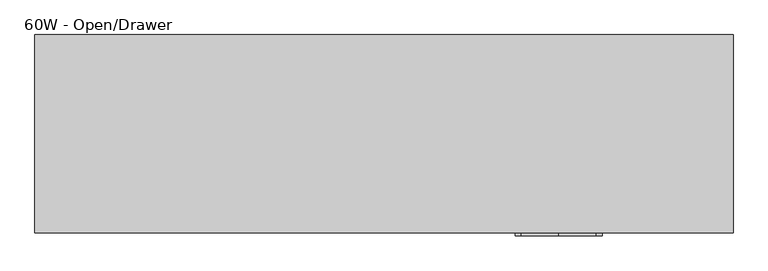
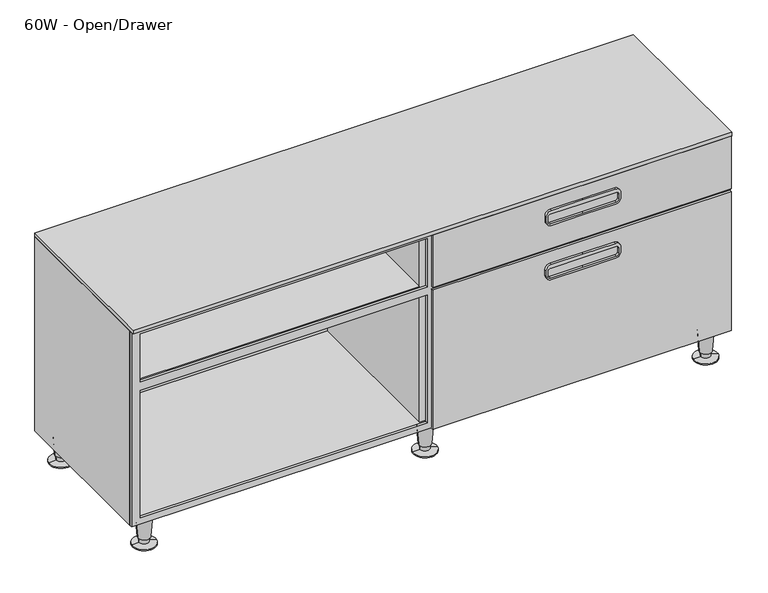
"""IFC4 building model written with IfcOpenShell, lengths in millimetres: furniture geometry, Steelcase - C Scape - Low Storage - 1.5 High - 60W and 72W : 60W - Open/Drawer."""

import ifcopenshell
import ifcopenshell.guid

model = None  # the IFC model being written
_history = None  # IfcOwnerHistory: only IFC2X3 demands one
_inside = {}  # id of a spatial element -> (the spatial element, [elements in it])
_under = {}  # id of a project, library or spatial element -> (it, [spatial elements below it])
_declared = {}  # id of a project -> (the project, [libraries it declares])
_typed = {}  # id of a type object -> (the type object, [elements of that type])
_made_of = {}  # id of a material, layer set ... -> (it, [elements and type objects made of it])


def new_model(schema):
    """Start an empty IFC model of exactly this schema.

    Asked for "IFC4X3", IfcOpenShell would pick the latest addendum, in which some entities
    have other attributes; the version numbers below select the first issue.
    IFC2X3 requires an IfcOwnerHistory on every rooted entity: one is made here for all.
    """
    global model, _history
    if schema == "IFC4X3":
        model = ifcopenshell.file(schema_version=(4, 3, 0, 0))
    else:
        model = ifcopenshell.file(schema=schema)
    _inside.clear()
    _under.clear()
    _declared.clear()
    _typed.clear()
    _made_of.clear()
    _history = None
    if model.schema == "IFC2X3":
        org = make("IfcOrganization", Name="unknown")
        user = make(
            "IfcPersonAndOrganization",
            ThePerson=make("IfcPerson", FamilyName="unknown"),
            TheOrganization=org,
        )
        app = make(
            "IfcApplication",
            ApplicationDeveloper=org,
            Version="unknown",
            ApplicationFullName="unknown",
            ApplicationIdentifier="unknown",
        )
        _history = make(
            "IfcOwnerHistory",
            OwningUser=user,
            OwningApplication=app,
            ChangeAction="ADDED",
            CreationDate=0,
        )
    return model


def make(cls, **values):
    """One entity of the class cls with the attributes given. An attribute that is None is left unset."""
    return model.create_entity(
        cls, **{name: value for name, value in values.items() if value is not None}
    )


def rooted(cls, **values):
    """An entity with a GlobalId (a new one), such as an element, a storey or a relation."""
    return make(cls, GlobalId=ifcopenshell.guid.new(), OwnerHistory=_history, **values)


def si_unit(unit_type, name, prefix=None):
    """IfcSIUnit, for example si_unit("LENGTHUNIT", "METRE", prefix="MILLI")."""
    return make("IfcSIUnit", UnitType=unit_type, Prefix=prefix, Name=name)


def assignment(units):
    """IfcUnitAssignment: the units of a project."""
    return None if units is None else make("IfcUnitAssignment", Units=units)


def point(xyz):
    """IfcCartesianPoint."""
    return None if xyz is None else make("IfcCartesianPoint", Coordinates=xyz)


def direction(xyz):
    """IfcDirection."""
    return None if xyz is None else make("IfcDirection", DirectionRatios=xyz)


def frame(location, z_axis=None, x_axis=None):
    """IfcAxis2Placement3D, a coordinate frame: its origin and axes. An axis left out is left unset."""
    return make(
        "IfcAxis2Placement3D",
        Location=point(location),
        Axis=direction(z_axis),
        RefDirection=direction(x_axis),
    )


def frame_2d(location, x_axis=None):
    """IfcAxis2Placement2D, a coordinate frame in the plane: its origin and x axis."""
    return make(
        "IfcAxis2Placement2D", Location=point(location), RefDirection=direction(x_axis)
    )


def origin():
    """The frame at (0, 0, 0) with its axes left unset."""
    return frame((0.0, 0.0, 0.0))


def place(relative_to, where):
    """IfcLocalPlacement: puts the frame where relative to a parent placement (None: the world)."""
    return make(
        "IfcLocalPlacement", PlacementRelTo=relative_to, RelativePlacement=where
    )


def context(
    kind, dimensions, precision=None, world=None, true_north=None, identifier=None
):
    """IfcGeometricRepresentationContext, for example the 3D "Model" context."""
    return make(
        "IfcGeometricRepresentationContext",
        ContextIdentifier=identifier,
        ContextType=kind,
        CoordinateSpaceDimension=dimensions,
        Precision=precision,
        WorldCoordinateSystem=world,
        TrueNorth=true_north,
    )


def project(units=None, contexts=None):
    """IfcProject with its units and contexts."""
    return rooted(
        "IfcProject",
        Name="project",
        RepresentationContexts=contexts,
        UnitsInContext=assignment(units),
    )


def spatial(cls, under=None, at=None, **own):
    """A site, building, storey or space (cls), placed at a placement, below another one or the project."""
    s = rooted(cls, ObjectPlacement=at, **own)
    if under is not None:
        _under.setdefault(under.id(), (under, []))[1].append(s)
    return s


def polyline(points):
    """IfcPolyline through the points."""
    return make("IfcPolyline", Points=[point(p) for p in points])


def circle_curve(where, radius):
    """IfcCircle in the frame where."""
    return make("IfcCircle", Position=where, Radius=radius)


def trimmed(basis, trim1, trim2, sense, master):
    """IfcTrimmedCurve: the piece of a basis curve between two trims."""
    return make(
        "IfcTrimmedCurve",
        BasisCurve=basis,
        Trim1=trim1,
        Trim2=trim2,
        SenseAgreement=sense,
        MasterRepresentation=master,
    )


def segment(curve, same_sense, transition):
    """IfcCompositeCurveSegment."""
    return make(
        "IfcCompositeCurveSegment",
        Transition=transition,
        SameSense=same_sense,
        ParentCurve=curve,
    )


def composite_curve(segments, self_intersect=None):
    """IfcCompositeCurve: segments joined end to end."""
    return make("IfcCompositeCurve", Segments=segments, SelfIntersect=self_intersect)


def outline(outer, holes=None, kind="AREA"):
    """IfcArbitraryClosedProfileDef: a profile drawn as a closed curve; with holes, ...WithVoids."""
    if holes is None:
        return make("IfcArbitraryClosedProfileDef", ProfileType=kind, OuterCurve=outer)
    return make(
        "IfcArbitraryProfileDefWithVoids",
        ProfileType=kind,
        OuterCurve=outer,
        InnerCurves=holes,
    )


def extrude(swept, where, along, depth):
    """IfcExtrudedAreaSolid: the profile swept, set in the frame where, extruded along a direction by depth."""
    return make(
        "IfcExtrudedAreaSolid",
        SweptArea=swept,
        Position=where,
        ExtrudedDirection=direction(along),
        Depth=depth,
    )


def faces_of(points, faces, orient=None, outer=None):
    """IfcFace entities. A face is a list of loops; a loop is a list of indices into points, from 0.

    orient and outer hold one flag for each loop. By default every Orientation is true, the
    first loop of a face is its IfcFaceOuterBound and the others are IfcFaceBound.
    """
    made = []
    for i, loops in enumerate(faces):
        bounds = []
        for j, loop in enumerate(loops):
            is_outer = j == 0 if outer is None else outer[i][j]
            bounds.append(
                make(
                    "IfcFaceOuterBound" if is_outer else "IfcFaceBound",
                    Bound=make("IfcPolyLoop", Polygon=[points[k] for k in loop]),
                    Orientation=True if orient is None else orient[i][j],
                )
            )
        made.append(make("IfcFace", Bounds=bounds))
    return made


def faceted_brep(points, faces, orient=None, outer=None, voids=None):
    """IfcFacetedBrep: a solid bounded by flat faces; with voids (closed shells), ...WithVoids."""
    shared = [point(p) for p in points]
    hull = make("IfcClosedShell", CfsFaces=faces_of(shared, faces, orient, outer))
    if voids is None:
        return make("IfcFacetedBrep", Outer=hull)
    return make(
        "IfcFacetedBrepWithVoids",
        Outer=hull,
        Voids=[
            make(cls, CfsFaces=faces_of(shared, fs, o, b)) for cls, fs, o, b in voids
        ],
    )


def shape(context_of_items, identifier, shape_type, items):
    """IfcShapeRepresentation: the items that make up one representation, for example the "Body"."""
    return make(
        "IfcShapeRepresentation",
        ContextOfItems=context_of_items,
        RepresentationIdentifier=identifier,
        RepresentationType=shape_type,
        Items=items,
    )


def source(mapping_origin, context_of_items, identifier, shape_type, items):
    """IfcRepresentationMap: a shape defined once, which mapped items show again and again."""
    return make(
        "IfcRepresentationMap",
        MappingOrigin=mapping_origin,
        MappedRepresentation=shape(context_of_items, identifier, shape_type, items),
    )


def transform(
    local_origin,
    x_axis=None,
    y_axis=None,
    z_axis=None,
    scale=None,
    scale2=None,
    scale3=None,
    uniform=True,
):
    """IfcCartesianTransformationOperator3D, or its non-uniform kind. x_axis, y_axis, z_axis: its Axis1, 2, 3."""
    if uniform:
        return make(
            "IfcCartesianTransformationOperator3D",
            Axis1=direction(x_axis),
            Axis2=direction(y_axis),
            LocalOrigin=point(local_origin),
            Scale=scale,
            Axis3=direction(z_axis),
        )
    return make(
        "IfcCartesianTransformationOperator3DnonUniform",
        Axis1=direction(x_axis),
        Axis2=direction(y_axis),
        LocalOrigin=point(local_origin),
        Scale=scale,
        Axis3=direction(z_axis),
        Scale2=scale2,
        Scale3=scale3,
    )


def mapped(mapping_source, mapping_target):
    """IfcMappedItem: shows the shape of a source again, moved by a transform."""
    return make(
        "IfcMappedItem", MappingSource=mapping_source, MappingTarget=mapping_target
    )


def made_of(thing, what):
    """Note that an element or type object is made of a material, layer set ...; save() writes the relation."""
    if what is not None:
        _made_of.setdefault(what.id(), (what, []))[1].append(thing)
    return thing


def element(
    cls,
    number,
    at=None,
    inside=None,
    cuts=None,
    type_object=None,
    material=None,
    context=None,
    identifier="Body",
    shape_type=None,
    held_by="IfcProductDefinitionShape",
    body=None,
    shapes=None,
    **own,
):
    """One element of the class cls, such as IfcWall. Its Tag is "e" and its number.

    at: its placement. inside: the storey or other place that contains it. cuts: it is an
    opening in that element (IfcRelVoidsElement). A single representation is given by context,
    identifier, shape_type and body (its items); several are given by shapes. held_by: the class
    of the entity that holds the representations. save() writes the other relations.
    """
    e = rooted(cls, Tag="e%d" % number, ObjectPlacement=at, **own)
    if body is not None:
        shapes = [shape(context, identifier, shape_type, body)]
    if shapes is not None:
        e.Representation = make(held_by, Representations=shapes)
    if inside is not None:
        _inside.setdefault(inside.id(), (inside, []))[1].append(e)
    if cuts is not None:
        rooted(
            "IfcRelVoidsElement", RelatingBuildingElement=cuts, RelatedOpeningElement=e
        )
    if type_object is not None:
        _typed.setdefault(type_object.id(), (type_object, []))[1].append(e)
    return made_of(e, material)


def aggregate(whole, parts):
    """IfcRelAggregates: a whole, such as a stair, and the parts it consists of."""
    return rooted("IfcRelAggregates", RelatingObject=whole, RelatedObjects=parts)


def save(model, path):
    """Write the relations noted so far, then the file.

    IfcRelAggregates (storeys below a building ...), IfcRelContainedInSpatialStructure (elements
    in a storey), IfcRelDefinesByType, IfcRelAssociatesMaterial and IfcRelDeclares: one each for
    every whole, place, type object, material and project.
    """
    for whole, parts in _under.values():
        aggregate(whole, parts)
    for where, things in _inside.values():
        rooted(
            "IfcRelContainedInSpatialStructure",
            RelatedElements=things,
            RelatingStructure=where,
        )
    for kind, things in _typed.values():
        rooted("IfcRelDefinesByType", RelatedObjects=things, RelatingType=kind)
    for what, things in _made_of.values():
        rooted("IfcRelAssociatesMaterial", RelatedObjects=things, RelatingMaterial=what)
    for by, libraries in _declared.values():
        rooted("IfcRelDeclares", RelatingContext=by, RelatedDefinitions=libraries)
    model.write(path)


def plane_surface(at):
    """IfcPlane: the flat surface through the origin of the frame at, square to its z axis."""
    return make("IfcPlane", Position=at)


def cylinder_surface(at, radius):
    """IfcCylindricalSurface: all points at the distance radius from the z axis of the frame at."""
    return make("IfcCylindricalSurface", Position=at, Radius=radius)


def revolved_surface(curve, axis_point, axis_direction):
    """IfcSurfaceOfRevolution: the curve turned about the line through axis_point along axis_direction."""
    return make(
        "IfcSurfaceOfRevolution",
        SweptCurve=make("IfcArbitraryOpenProfileDef", ProfileType="CURVE", Curve=curve),
        AxisPosition=make("IfcAxis1Placement", Location=point(axis_point), Axis=direction(axis_direction)),
    )


def advanced_brep(points, edges, surfaces, faces):
    """IfcAdvancedBrep: a solid bounded by faces that lie on surfaces and meet in shared edges.

    An edge is (start, end): straight between two places in points (the first is 0);
    or (start, end, curve); or (start, end, curve, False) where it runs against its curve.
    A face is (place in surfaces, loops), or (place, loops, False) where it looks against
    its surface's normal. A loop lists edges by number (the first is 1), with a minus sign
    where the edge is run from its end to its start. The first loop is the outer one.
    """
    corners = [point(p) for p in points]
    vertices = [make("IfcVertexPoint", VertexGeometry=c) for c in corners]
    made = []
    for start, end, *more in edges:
        made.append(
            make(
                "IfcEdgeCurve",
                EdgeStart=vertices[start],
                EdgeEnd=vertices[end],
                EdgeGeometry=more[0] if more else make("IfcPolyline", Points=[corners[start], corners[end]]),
                SameSense=more[1] if len(more) > 1 else True,
            )
        )
    hull = []
    for where, loops, *sense in faces:
        bounds = []
        for j, loop in enumerate(loops):
            ring = [make("IfcOrientedEdge", EdgeElement=made[abs(k) - 1], Orientation=k > 0) for k in loop]
            bounds.append(
                make(
                    "IfcFaceOuterBound" if j == 0 else "IfcFaceBound",
                    Bound=make("IfcEdgeLoop", EdgeList=ring),
                    Orientation=True,
                )
            )
        hull.append(make("IfcAdvancedFace", Bounds=bounds, FaceSurface=surfaces[where], SameSense=sense[0] if sense else True))
    return make("IfcAdvancedBrep", Outer=make("IfcClosedShell", CfsFaces=hull))


def furniture_60w_open_drawer_7b1ca7c3(model_context):
    return source(origin(), model_context, "Body", "SolidModel", [
        extrude(outline(polyline([(76.1508625, -305.435), (76.1508625, 1218.565), (599.4400097, 1218.565), (599.4400097, 457.132594), (599.4400097, -305.435), (76.1508625, -305.435)]), holes=[polyline([(92.7100024, 447.6410976), (92.7100024, -283.4617676), (436.8800097, -283.4617676), (436.8800097, 447.6410976), (92.7100024, 447.6410976)]), polyline([(588.9625, -283.4617676), (588.9625, 447.6410976), (458.7240097, 447.6410976), (458.7240097, -283.4617676), (588.9625, -283.4617676)]), polyline([(436.8800097, 465.4889024), (436.8800097, 1196.5917676), (92.7100024, 1196.5917676), (92.7100024, 465.4889024), (436.8800097, 465.4889024)]), polyline([(588.9625, 1196.5917676), (458.7240097, 1196.5917676), (458.7240097, 465.4889024), (588.9625, 465.4889024), (588.9625, 1196.5917676)])]), frame((0.0, -426.7186111, 0.0), z_axis=(0.0, 1.0, 0.0), x_axis=(0.0, 0.0, 1.0)), (0.0, 0.0, 1.0), 7.3648883),
        extrude(outline(polyline([(479.1075126, -9.525), (1196.5917676, -9.525), (1196.5917676, -415.2912402), (479.1075126, -415.2912402), (479.1075126, -9.525)])), frame((0.0, 0.0, 436.8800097), z_axis=(0.0, 0.0, 1.0), x_axis=(1.0, 0.0, 0.0)), (0.0, 0.0, 1.0), 21.844),
        extrude(outline(polyline([(434.0224874, -415.2912402), (-283.4617676, -415.2912402), (-283.4617676, -9.525), (434.0224874, -9.525), (434.0224874, -415.2912402)])), frame((0.0, 0.0, 436.8800097), z_axis=(0.0, 0.0, 1.0), x_axis=(1.0, 0.0, 0.0)), (0.0, 0.0, 1.0), 21.844),
        extrude(outline(composite_curve([segment(trimmed(circle_curve(frame_2d((406.3999879, 755.3320892)), 12.7), [point((419.0999879, 755.3320892))], [point((406.3999879, 742.6320892))], False, "CARTESIAN"), True, "CONTINUOUS"), segment(polyline([(406.3999879, 742.6320892), (391.795017, 742.6320892)]), True, "CONTINUOUS"), segment(trimmed(circle_curve(frame_2d((391.795017, 755.3320892)), 12.7), [point((391.795017, 742.6320892))], [point((379.095017, 755.3320892))], False, "CARTESIAN"), True, "CONTINUOUS"), segment(polyline([(379.095017, 755.3320892), (379.095017, 837.564845), (379.095017, 919.7976007)]), True, "CONTINUOUS"), segment(trimmed(circle_curve(frame_2d((391.795017, 919.7976007)), 12.7), [point((379.095017, 919.7976007))], [point((391.795017, 932.4976007))], False, "CARTESIAN"), True, "CONTINUOUS"), segment(polyline([(391.795017, 932.4976007), (406.3999879, 932.4976007)]), True, "CONTINUOUS"), segment(trimmed(circle_curve(frame_2d((406.3999879, 919.7976007)), 12.7), [point((406.3999879, 932.4976007))], [point((419.0999879, 919.7976007))], False, "CARTESIAN"), True, "CONTINUOUS"), segment(polyline([(419.0999879, 919.7976007), (419.0999879, 837.564845), (419.0999879, 755.3320892)]), True, "CONTINUOUS")], self_intersect=False), holes=[composite_curve([segment(trimmed(circle_curve(frame_2d((402.9710063, 753.8097015)), 6.35), [point((402.9710063, 747.4597015))], [point((409.3210063, 753.8097015))], True, "CARTESIAN"), True, "CONTINUOUS"), segment(polyline([(409.3210063, 753.8097015), (409.3210063, 837.564845), (409.3210063, 921.3199884)]), True, "CONTINUOUS"), segment(trimmed(circle_curve(frame_2d((402.9710063, 921.3199884)), 6.35), [point((409.3210063, 921.3199884))], [point((402.9710063, 927.6699884))], True, "CARTESIAN"), True, "CONTINUOUS"), segment(polyline([(402.9710063, 927.6699884), (390.2709942, 927.6699884)]), True, "CONTINUOUS"), segment(trimmed(circle_curve(frame_2d((390.2709942, 921.3199884)), 6.35), [point((390.2709942, 927.6699884))], [point((383.9209942, 921.3199884))], True, "CARTESIAN"), True, "CONTINUOUS"), segment(polyline([(383.9209942, 921.3199884), (383.9209942, 837.564845), (383.9209942, 753.8097015)]), True, "CONTINUOUS"), segment(trimmed(circle_curve(frame_2d((390.2709942, 753.8097015)), 6.35), [point((383.9209942, 753.8097015))], [point((390.2709942, 747.4597015))], True, "CARTESIAN"), True, "CONTINUOUS"), segment(polyline([(390.2709942, 747.4597015), (402.9710063, 747.4597015)]), True, "CONTINUOUS")], self_intersect=False)]), frame((0.0, -439.42, 0.0), z_axis=(0.0, 1.0, 0.0), x_axis=(0.0, 0.0, 1.0)), (0.0, 0.0, 1.0), 6.35),
        extrude(outline(polyline([(457.1996899, -426.7186111), (1217.93, -426.7186111), (1217.93, -433.07), (457.1996899, -433.07), (457.1996899, -426.7186111)])), frame((0.0, 0.0, 458.7240097), z_axis=(0.0, 0.0, 1.0), x_axis=(1.0, 0.0, 0.0)), (0.0, 0.0, 1.0), 140.716),
        faceted_brep([(-283.4617676, -419.3537227, 92.7100024), (1196.5917676, -419.3537227, 92.7100024), (1196.5917676, -9.525, 92.7100024), (479.1075126, -9.525, 92.7100024), (479.1075126, -415.2912402, 92.7100024), (434.0224874, -415.2912402, 92.7100024), (434.0224874, -9.525, 92.7100024), (-283.4617676, -9.525, 92.7100024), (1218.565, 0.0, 76.2), (1218.565, -419.3537227, 76.2), (-305.435, -419.3537227, 76.2), (-305.435, 0.0, 76.2), (-283.4630912, -419.3537227, 599.4400097), (-305.435, -419.3537227, 599.4400097), (1218.565, -419.3537227, 599.4400097), (1196.5917676, -419.3537227, 599.4400097), (-305.435, 0.0, 599.4400097), (1218.565, 0.0, 599.4400097), (-283.4630912, -9.525, 599.4400097), (434.0224874, -9.525, 599.4400097), (434.0224874, -415.2912402, 599.4400097), (479.1075126, -415.2912402, 599.4400097), (479.1075126, -9.525, 599.4400097), (1196.5917676, -9.525, 599.4400097)], [[[0, 1, 2, 3, 4, 5, 6, 7]], [[8, 9, 10, 11]], [[1, 0, 12, 13, 10, 9, 14, 15]], [[8, 11, 16, 17]], [[16, 13, 12, 18, 19, 20, 21, 22, 23, 15, 14, 17]], [[13, 16, 11, 10]], [[18, 12, 0, 7]], [[19, 18, 7, 6]], [[20, 19, 6, 5]], [[22, 21, 4, 3]], [[23, 22, 3, 2]], [[15, 23, 2, 1]], [[17, 14, 9, 8]], [[21, 20, 5, 4]]]),
        advanced_brep(
        [(427.4539515, -29.9489775, 0.0), (485.6760485, -38.8569507, 0.0), (456.565, -34.4029641, 0.0), (427.4539515, -29.9489775, 2.5119506), (485.6760485, -38.8569507, 2.5119506), (444.802835, -32.6033544, 5.7545598), (468.327165, -36.2025738, 5.7545598), (444.1140655, -32.4979728, 19.05), (469.0159345, -36.3079555, 19.05), (441.6844786, -32.1262463, 19.05), (471.4455214, -36.6796819, 19.05), (437.7341305, -31.5218435, 76.2), (475.3958695, -37.2840847, 76.2), (456.565, -34.4029641, 76.2)],
        [
            (0, 1, circle_curve(frame((456.565, -34.4029641, 0.0), z_axis=(0.0, 0.0, -1.0), x_axis=(0.0, -1.0, 0.0)), 29.4498071)),
            (1, 2),
            (2, 0),
            (1, 0, circle_curve(frame((456.565, -34.4029641, 0.0), z_axis=(0.0, 0.0, -1.0), x_axis=(0.0, -1.0, 0.0)), 29.4498071)),
            (3, 4, circle_curve(frame((456.565, -34.4029641, 2.5119506), z_axis=(0.0, 0.0, -1.0), x_axis=(0.0, -1.0, 0.0)), 29.4498071)),
            (4, 1),
            (0, 3),
            (4, 3, circle_curve(frame((456.565, -34.4029641, 2.5119506), z_axis=(0.0, 0.0, -1.0), x_axis=(0.0, -1.0, 0.0)), 29.4498071)),
            (5, 6, circle_curve(frame((456.565, -34.4029641, 5.7545598), z_axis=(0.0, 0.0, -1.0), x_axis=(0.0, -1.0, 0.0)), 11.8990387)),
            (6, 4),
            (3, 5),
            (6, 5, circle_curve(frame((456.565, -34.4029641, 5.7545598), z_axis=(0.0, 0.0, -1.0), x_axis=(0.0, -1.0, 0.0)), 11.8990387)),
            (7, 8, circle_curve(frame((456.565, -34.4029641, 19.05), z_axis=(0.0, 0.0, -1.0), x_axis=(0.0, -1.0, 0.0)), 12.5958232)),
            (8, 6),
            (5, 7),
            (8, 7, circle_curve(frame((456.565, -34.4029641, 19.05), z_axis=(0.0, 0.0, -1.0), x_axis=(0.0, -1.0, 0.0)), 12.5958232)),
            (9, 10, circle_curve(frame((456.565, -34.4029641, 19.05), z_axis=(0.0, 0.0, -1.0), x_axis=(0.0, -1.0, 0.0)), 15.0536827)),
            (10, 8),
            (7, 9),
            (10, 9, circle_curve(frame((456.565, -34.4029641, 19.05), z_axis=(0.0, 0.0, -1.0), x_axis=(0.0, -1.0, 0.0)), 15.0536827)),
            (11, 12, circle_curve(frame((456.565, -34.4029641, 76.2), z_axis=(0.0, 0.0, -1.0), x_axis=(0.0, -1.0, 0.0)), 19.05)),
            (12, 10),
            (9, 11),
            (12, 11, circle_curve(frame((456.565, -34.4029641, 76.2), z_axis=(0.0, 0.0, -1.0), x_axis=(0.0, -1.0, 0.0)), 19.05)),
            (13, 12),
            (11, 13),
        ],
        [
            plane_surface(frame((456.565, -34.4029641, 0.0), z_axis=(0.0, 0.0, -1.0), x_axis=(0.0, -1.0, 0.0))),
            cylinder_surface(frame((456.565, -34.4029641, 25.4), z_axis=(0.0, 0.0, 1.0), x_axis=(0.0, -1.0, 0.0)), 29.4498071),
            revolved_surface(polyline([(456.565, -63.8527712, 2.5119506), (456.565, -46.3020028, 5.7545598)]), (456.565, -34.4029641, 25.4), (0.0, 0.0, 1.0)),
            revolved_surface(polyline([(456.565, -46.3020028, 5.7545598), (456.565, -46.9987873, 19.05)]), (456.565, -34.4029641, 25.4), (0.0, 0.0, 1.0)),
            plane_surface(frame((456.565, -34.4029641, 19.05), z_axis=(0.0, 0.0, -1.0), x_axis=(0.0, -1.0, 0.0))),
            revolved_surface(polyline([(456.565, -49.4566468, 19.05), (456.565, -53.4529641, 76.2)]), (456.565, -34.4029641, 25.4), (0.0, 0.0, 1.0)),
            plane_surface(frame((456.565, -34.4029641, 76.2), z_axis=(0.0, 0.0, 1.0), x_axis=(0.0, -1.0, 0.0))),
        ],
        [
            (0, [[1, 2, 3]]),
            (0, [[4, -3, -2]]),
            (1, [[5, 6, -1, 7]]),
            (1, [[8, -7, -4, -6]]),
            (2, [[9, 10, -5, 11]]),
            (2, [[12, -11, -8, -10]]),
            (3, [[13, 14, -9, 15]]),
            (3, [[16, -15, -12, -14]]),
            (4, [[17, 18, -13, 19]]),
            (4, [[20, -19, -16, -18]]),
            (5, [[21, 22, -17, 23]]),
            (5, [[24, -23, -20, -22]]),
            (6, [[25, -21, 26]]),
            (6, [[-26, -24, -25]]),
        ],
    ),
        advanced_brep(
        [(427.4539515, -395.5974102, 0.0), (485.6760485, -404.5053834, 0.0), (456.565, -400.0513968, 0.0), (427.4539515, -395.5974102, 2.5119506), (485.6760485, -404.5053834, 2.5119506), (444.802835, -398.2517871, 5.7545598), (468.327165, -401.8510065, 5.7545598), (444.1140655, -398.1464055, 19.05), (469.0159345, -401.9563882, 19.05), (441.6844786, -397.774679, 19.05), (471.4455214, -402.3281146, 19.05), (437.7341305, -397.1702762, 76.2), (475.3958695, -402.9325174, 76.2), (456.565, -400.0513968, 76.2)],
        [
            (0, 1, circle_curve(frame((456.565, -400.0513968, 0.0), z_axis=(0.0, 0.0, -1.0), x_axis=(0.0, -1.0, 0.0)), 29.4498071)),
            (1, 2),
            (2, 0),
            (1, 0, circle_curve(frame((456.565, -400.0513968, 0.0), z_axis=(0.0, 0.0, -1.0), x_axis=(0.0, -1.0, 0.0)), 29.4498071)),
            (3, 4, circle_curve(frame((456.565, -400.0513968, 2.5119506), z_axis=(0.0, 0.0, -1.0), x_axis=(0.0, -1.0, 0.0)), 29.4498071)),
            (4, 1),
            (0, 3),
            (4, 3, circle_curve(frame((456.565, -400.0513968, 2.5119506), z_axis=(0.0, 0.0, -1.0), x_axis=(0.0, -1.0, 0.0)), 29.4498071)),
            (5, 6, circle_curve(frame((456.565, -400.0513968, 5.7545598), z_axis=(0.0, 0.0, -1.0), x_axis=(0.0, -1.0, 0.0)), 11.8990387)),
            (6, 4),
            (3, 5),
            (6, 5, circle_curve(frame((456.565, -400.0513968, 5.7545598), z_axis=(0.0, 0.0, -1.0), x_axis=(0.0, -1.0, 0.0)), 11.8990387)),
            (7, 8, circle_curve(frame((456.565, -400.0513968, 19.05), z_axis=(0.0, 0.0, -1.0), x_axis=(0.0, -1.0, 0.0)), 12.5958232)),
            (8, 6),
            (5, 7),
            (8, 7, circle_curve(frame((456.565, -400.0513968, 19.05), z_axis=(0.0, 0.0, -1.0), x_axis=(0.0, -1.0, 0.0)), 12.5958232)),
            (9, 10, circle_curve(frame((456.565, -400.0513968, 19.05), z_axis=(0.0, 0.0, -1.0), x_axis=(0.0, -1.0, 0.0)), 15.0536827)),
            (10, 8),
            (7, 9),
            (10, 9, circle_curve(frame((456.565, -400.0513968, 19.05), z_axis=(0.0, 0.0, -1.0), x_axis=(0.0, -1.0, 0.0)), 15.0536827)),
            (11, 12, circle_curve(frame((456.565, -400.0513968, 76.2), z_axis=(0.0, 0.0, -1.0), x_axis=(0.0, -1.0, 0.0)), 19.05)),
            (12, 10),
            (9, 11),
            (12, 11, circle_curve(frame((456.565, -400.0513968, 76.2), z_axis=(0.0, 0.0, -1.0), x_axis=(0.0, -1.0, 0.0)), 19.05)),
            (13, 12),
            (11, 13),
        ],
        [
            plane_surface(frame((456.565, -400.0513968, 0.0), z_axis=(0.0, 0.0, -1.0), x_axis=(0.0, -1.0, 0.0))),
            cylinder_surface(frame((456.565, -400.0513968, 25.4), z_axis=(0.0, 0.0, 1.0), x_axis=(0.0, -1.0, 0.0)), 29.4498071),
            revolved_surface(polyline([(456.565, -429.5012039, 2.5119506), (456.565, -411.9504355, 5.7545598)]), (456.565, -400.0513968, 25.4), (0.0, 0.0, 1.0)),
            revolved_surface(polyline([(456.565, -411.9504355, 5.7545598), (456.565, -412.64722, 19.05)]), (456.565, -400.0513968, 25.4), (0.0, 0.0, 1.0)),
            plane_surface(frame((456.565, -400.0513968, 19.05), z_axis=(0.0, 0.0, -1.0), x_axis=(0.0, -1.0, 0.0))),
            revolved_surface(polyline([(456.565, -415.1050795, 19.05), (456.565, -419.1013968, 76.2)]), (456.565, -400.0513968, 25.4), (0.0, 0.0, 1.0)),
            plane_surface(frame((456.565, -400.0513968, 76.2), z_axis=(0.0, 0.0, 1.0), x_axis=(0.0, -1.0, 0.0))),
        ],
        [
            (0, [[1, 2, 3]]),
            (0, [[4, -3, -2]]),
            (1, [[5, 6, -1, 7]]),
            (1, [[8, -7, -4, -6]]),
            (2, [[9, 10, -5, 11]]),
            (2, [[12, -11, -8, -10]]),
            (3, [[13, 14, -9, 15]]),
            (3, [[16, -15, -12, -14]]),
            (4, [[17, 18, -13, 19]]),
            (4, [[20, -19, -16, -18]]),
            (5, [[21, 22, -17, 23]]),
            (5, [[24, -23, -20, -22]]),
            (6, [[25, -21, 26]]),
            (6, [[-26, -24, -25]]),
        ],
    ),
        extrude(outline(composite_curve([segment(trimmed(circle_curve(frame_2d((552.4499879, 755.3320892)), 12.7), [point((565.1499879, 755.3320892))], [point((552.4499879, 742.6320892))], False, "CARTESIAN"), True, "CONTINUOUS"), segment(polyline([(552.4499879, 742.6320892), (537.845017, 742.6320892)]), True, "CONTINUOUS"), segment(trimmed(circle_curve(frame_2d((537.845017, 755.3320892)), 12.7), [point((537.845017, 742.6320892))], [point((525.145017, 755.3320892))], False, "CARTESIAN"), True, "CONTINUOUS"), segment(polyline([(525.145017, 755.3320892), (525.145017, 837.564845), (525.145017, 919.7976007)]), True, "CONTINUOUS"), segment(trimmed(circle_curve(frame_2d((537.845017, 919.7976007)), 12.7), [point((525.145017, 919.7976007))], [point((537.845017, 932.4976007))], False, "CARTESIAN"), True, "CONTINUOUS"), segment(polyline([(537.845017, 932.4976007), (552.4499879, 932.4976007)]), True, "CONTINUOUS"), segment(trimmed(circle_curve(frame_2d((552.4499879, 919.7976007)), 12.7), [point((552.4499879, 932.4976007))], [point((565.1499879, 919.7976007))], False, "CARTESIAN"), True, "CONTINUOUS"), segment(polyline([(565.1499879, 919.7976007), (565.1499879, 837.564845), (565.1499879, 755.3320892)]), True, "CONTINUOUS")], self_intersect=False), holes=[composite_curve([segment(trimmed(circle_curve(frame_2d((549.0210063, 753.8097015)), 6.35), [point((549.0210063, 747.4597015))], [point((555.3710063, 753.8097015))], True, "CARTESIAN"), True, "CONTINUOUS"), segment(polyline([(555.3710063, 753.8097015), (555.3710063, 837.564845), (555.3710063, 921.3199884)]), True, "CONTINUOUS"), segment(trimmed(circle_curve(frame_2d((549.0210063, 921.3199884)), 6.35), [point((555.3710063, 921.3199884))], [point((549.0210063, 927.6699884))], True, "CARTESIAN"), True, "CONTINUOUS"), segment(polyline([(549.0210063, 927.6699884), (536.3209942, 927.6699884)]), True, "CONTINUOUS"), segment(trimmed(circle_curve(frame_2d((536.3209942, 921.3199884)), 6.35), [point((536.3209942, 927.6699884))], [point((529.9709942, 921.3199884))], True, "CARTESIAN"), True, "CONTINUOUS"), segment(polyline([(529.9709942, 921.3199884), (529.9709942, 837.564845), (529.9709942, 753.8097015)]), True, "CONTINUOUS"), segment(trimmed(circle_curve(frame_2d((536.3209942, 753.8097015)), 6.35), [point((529.9709942, 753.8097015))], [point((536.3209942, 747.4597015))], True, "CARTESIAN"), True, "CONTINUOUS"), segment(polyline([(536.3209942, 747.4597015), (549.0210063, 747.4597015)]), True, "CONTINUOUS")], self_intersect=False)]), frame((0.0, -439.42, 0.0), z_axis=(0.0, 1.0, 0.0), x_axis=(0.0, 0.0, 1.0)), (0.0, 0.0, 1.0), 6.35),
        advanced_brep(
        [(1142.1075389, -29.9489775, 0.0), (1200.3296359, -38.8569507, 0.0), (1171.2185874, -34.4029641, 0.0), (1142.1075389, -29.9489775, 2.5119506), (1200.3296359, -38.8569507, 2.5119506), (1159.4564224, -32.6033544, 5.7545598), (1182.9807524, -36.2025738, 5.7545598), (1158.7676529, -32.4979728, 19.05), (1183.6695219, -36.3079555, 19.05), (1156.3380659, -32.1262463, 19.05), (1186.0991088, -36.6796819, 19.05), (1152.3877179, -31.5218435, 76.2), (1190.0494568, -37.2840847, 76.2), (1171.2185874, -34.4029641, 76.2)],
        [
            (0, 1, circle_curve(frame((1171.2185874, -34.4029641, 0.0), z_axis=(0.0, 0.0, -1.0), x_axis=(0.0, -1.0, 0.0)), 29.4498071)),
            (1, 2),
            (2, 0),
            (1, 0, circle_curve(frame((1171.2185874, -34.4029641, 0.0), z_axis=(0.0, 0.0, -1.0), x_axis=(0.0, -1.0, 0.0)), 29.4498071)),
            (3, 4, circle_curve(frame((1171.2185874, -34.4029641, 2.5119506), z_axis=(0.0, 0.0, -1.0), x_axis=(0.0, -1.0, 0.0)), 29.4498071)),
            (4, 1),
            (0, 3),
            (4, 3, circle_curve(frame((1171.2185874, -34.4029641, 2.5119506), z_axis=(0.0, 0.0, -1.0), x_axis=(0.0, -1.0, 0.0)), 29.4498071)),
            (5, 6, circle_curve(frame((1171.2185874, -34.4029641, 5.7545598), z_axis=(0.0, 0.0, -1.0), x_axis=(0.0, -1.0, 0.0)), 11.8990387)),
            (6, 4),
            (3, 5),
            (6, 5, circle_curve(frame((1171.2185874, -34.4029641, 5.7545598), z_axis=(0.0, 0.0, -1.0), x_axis=(0.0, -1.0, 0.0)), 11.8990387)),
            (7, 8, circle_curve(frame((1171.2185874, -34.4029641, 19.05), z_axis=(0.0, 0.0, -1.0), x_axis=(0.0, -1.0, 0.0)), 12.5958232)),
            (8, 6),
            (5, 7),
            (8, 7, circle_curve(frame((1171.2185874, -34.4029641, 19.05), z_axis=(0.0, 0.0, -1.0), x_axis=(0.0, -1.0, 0.0)), 12.5958232)),
            (9, 10, circle_curve(frame((1171.2185874, -34.4029641, 19.05), z_axis=(0.0, 0.0, -1.0), x_axis=(0.0, -1.0, 0.0)), 15.0536827)),
            (10, 8),
            (7, 9),
            (10, 9, circle_curve(frame((1171.2185874, -34.4029641, 19.05), z_axis=(0.0, 0.0, -1.0), x_axis=(0.0, -1.0, 0.0)), 15.0536827)),
            (11, 12, circle_curve(frame((1171.2185874, -34.4029641, 76.2), z_axis=(0.0, 0.0, -1.0), x_axis=(0.0, -1.0, 0.0)), 19.05)),
            (12, 10),
            (9, 11),
            (12, 11, circle_curve(frame((1171.2185874, -34.4029641, 76.2), z_axis=(0.0, 0.0, -1.0), x_axis=(0.0, -1.0, 0.0)), 19.05)),
            (13, 12),
            (11, 13),
        ],
        [
            plane_surface(frame((1171.2185874, -34.4029641, 0.0), z_axis=(0.0, 0.0, -1.0), x_axis=(0.0, -1.0, 0.0))),
            cylinder_surface(frame((1171.2185874, -34.4029641, 25.4), z_axis=(0.0, 0.0, 1.0), x_axis=(0.0, -1.0, 0.0)), 29.4498071),
            revolved_surface(polyline([(1171.2185874, -63.8527712, 2.5119506), (1171.2185874, -46.3020028, 5.7545598)]), (1171.2185874, -34.4029641, 25.4), (0.0, 0.0, 1.0)),
            revolved_surface(polyline([(1171.2185874, -46.3020028, 5.7545598), (1171.2185874, -46.9987873, 19.05)]), (1171.2185874, -34.4029641, 25.4), (0.0, 0.0, 1.0)),
            plane_surface(frame((1171.2185874, -34.4029641, 19.05), z_axis=(0.0, 0.0, -1.0), x_axis=(0.0, -1.0, 0.0))),
            revolved_surface(polyline([(1171.2185874, -49.4566468, 19.05), (1171.2185874, -53.4529641, 76.2)]), (1171.2185874, -34.4029641, 25.4), (0.0, 0.0, 1.0)),
            plane_surface(frame((1171.2185874, -34.4029641, 76.2), z_axis=(0.0, 0.0, 1.0), x_axis=(0.0, -1.0, 0.0))),
        ],
        [
            (0, [[1, 2, 3]]),
            (0, [[4, -3, -2]]),
            (1, [[5, 6, -1, 7]]),
            (1, [[8, -7, -4, -6]]),
            (2, [[9, 10, -5, 11]]),
            (2, [[12, -11, -8, -10]]),
            (3, [[13, 14, -9, 15]]),
            (3, [[16, -15, -12, -14]]),
            (4, [[17, 18, -13, 19]]),
            (4, [[20, -19, -16, -18]]),
            (5, [[21, 22, -17, 23]]),
            (5, [[24, -23, -20, -22]]),
            (6, [[25, -21, 26]]),
            (6, [[-26, -24, -25]]),
        ],
    ),
        advanced_brep(
        [(1142.1075389, -395.5974102, 0.0), (1200.3296359, -404.5053834, 0.0), (1171.2185874, -400.0513968, 0.0), (1142.1075389, -395.5974102, 2.5119506), (1200.3296359, -404.5053834, 2.5119506), (1159.4564224, -398.2517871, 5.7545598), (1182.9807524, -401.8510065, 5.7545598), (1158.7676529, -398.1464055, 19.05), (1183.6695219, -401.9563882, 19.05), (1156.3380659, -397.774679, 19.05), (1186.0991088, -402.3281146, 19.05), (1152.3877179, -397.1702762, 76.2), (1190.0494568, -402.9325174, 76.2), (1171.2185874, -400.0513968, 76.2)],
        [
            (0, 1, circle_curve(frame((1171.2185874, -400.0513968, 0.0), z_axis=(0.0, 0.0, -1.0), x_axis=(0.0, -1.0, 0.0)), 29.4498071)),
            (1, 2),
            (2, 0),
            (1, 0, circle_curve(frame((1171.2185874, -400.0513968, 0.0), z_axis=(0.0, 0.0, -1.0), x_axis=(0.0, -1.0, 0.0)), 29.4498071)),
            (3, 4, circle_curve(frame((1171.2185874, -400.0513968, 2.5119506), z_axis=(0.0, 0.0, -1.0), x_axis=(0.0, -1.0, 0.0)), 29.4498071)),
            (4, 1),
            (0, 3),
            (4, 3, circle_curve(frame((1171.2185874, -400.0513968, 2.5119506), z_axis=(0.0, 0.0, -1.0), x_axis=(0.0, -1.0, 0.0)), 29.4498071)),
            (5, 6, circle_curve(frame((1171.2185874, -400.0513968, 5.7545598), z_axis=(0.0, 0.0, -1.0), x_axis=(0.0, -1.0, 0.0)), 11.8990387)),
            (6, 4),
            (3, 5),
            (6, 5, circle_curve(frame((1171.2185874, -400.0513968, 5.7545598), z_axis=(0.0, 0.0, -1.0), x_axis=(0.0, -1.0, 0.0)), 11.8990387)),
            (7, 8, circle_curve(frame((1171.2185874, -400.0513968, 19.05), z_axis=(0.0, 0.0, -1.0), x_axis=(0.0, -1.0, 0.0)), 12.5958232)),
            (8, 6),
            (5, 7),
            (8, 7, circle_curve(frame((1171.2185874, -400.0513968, 19.05), z_axis=(0.0, 0.0, -1.0), x_axis=(0.0, -1.0, 0.0)), 12.5958232)),
            (9, 10, circle_curve(frame((1171.2185874, -400.0513968, 19.05), z_axis=(0.0, 0.0, -1.0), x_axis=(0.0, -1.0, 0.0)), 15.0536827)),
            (10, 8),
            (7, 9),
            (10, 9, circle_curve(frame((1171.2185874, -400.0513968, 19.05), z_axis=(0.0, 0.0, -1.0), x_axis=(0.0, -1.0, 0.0)), 15.0536827)),
            (11, 12, circle_curve(frame((1171.2185874, -400.0513968, 76.2), z_axis=(0.0, 0.0, -1.0), x_axis=(0.0, -1.0, 0.0)), 19.05)),
            (12, 10),
            (9, 11),
            (12, 11, circle_curve(frame((1171.2185874, -400.0513968, 76.2), z_axis=(0.0, 0.0, -1.0), x_axis=(0.0, -1.0, 0.0)), 19.05)),
            (13, 12),
            (11, 13),
        ],
        [
            plane_surface(frame((1171.2185874, -400.0513968, 0.0), z_axis=(0.0, 0.0, -1.0), x_axis=(0.0, -1.0, 0.0))),
            cylinder_surface(frame((1171.2185874, -400.0513968, 25.4), z_axis=(0.0, 0.0, 1.0), x_axis=(0.0, -1.0, 0.0)), 29.4498071),
            revolved_surface(polyline([(1171.2185874, -429.5012039, 2.5119506), (1171.2185874, -411.9504355, 5.7545598)]), (1171.2185874, -400.0513968, 25.4), (0.0, 0.0, 1.0)),
            revolved_surface(polyline([(1171.2185874, -411.9504355, 5.7545598), (1171.2185874, -412.64722, 19.05)]), (1171.2185874, -400.0513968, 25.4), (0.0, 0.0, 1.0)),
            plane_surface(frame((1171.2185874, -400.0513968, 19.05), z_axis=(0.0, 0.0, -1.0), x_axis=(0.0, -1.0, 0.0))),
            revolved_surface(polyline([(1171.2185874, -415.1050795, 19.05), (1171.2185874, -419.1013968, 76.2)]), (1171.2185874, -400.0513968, 25.4), (0.0, 0.0, 1.0)),
            plane_surface(frame((1171.2185874, -400.0513968, 76.2), z_axis=(0.0, 0.0, 1.0), x_axis=(0.0, -1.0, 0.0))),
        ],
        [
            (0, [[1, 2, 3]]),
            (0, [[4, -3, -2]]),
            (1, [[5, 6, -1, 7]]),
            (1, [[8, -7, -4, -6]]),
            (2, [[9, 10, -5, 11]]),
            (2, [[12, -11, -8, -10]]),
            (3, [[13, 14, -9, 15]]),
            (3, [[16, -15, -12, -14]]),
            (4, [[17, 18, -13, 19]]),
            (4, [[20, -19, -16, -18]]),
            (5, [[21, 22, -17, 23]]),
            (5, [[24, -23, -20, -22]]),
            (6, [[25, -21, 26]]),
            (6, [[-26, -24, -25]]),
        ],
    ),
        advanced_brep(
        [(-287.8113721, -395.5974102, 0.0), (-229.5892752, -404.5053834, 0.0), (-258.7003237, -400.0513968, 0.0), (-287.8113721, -395.5974102, 2.5119506), (-229.5892752, -404.5053834, 2.5119506), (-270.4624887, -398.2517871, 5.7545598), (-246.9381586, -401.8510065, 5.7545598), (-271.1512581, -398.1464055, 19.05), (-246.2493892, -401.9563882, 19.05), (-273.5808451, -397.774679, 19.05), (-243.8198022, -402.3281146, 19.05), (-277.5311931, -397.1702762, 76.2), (-239.8694542, -402.9325174, 76.2), (-258.7003237, -400.0513968, 76.2)],
        [
            (0, 1, circle_curve(frame((-258.7003237, -400.0513968, 0.0), z_axis=(0.0, 0.0, -1.0), x_axis=(0.0, -1.0, 0.0)), 29.4498071)),
            (1, 2),
            (2, 0),
            (1, 0, circle_curve(frame((-258.7003237, -400.0513968, 0.0), z_axis=(0.0, 0.0, -1.0), x_axis=(0.0, -1.0, 0.0)), 29.4498071)),
            (3, 4, circle_curve(frame((-258.7003237, -400.0513968, 2.5119506), z_axis=(0.0, 0.0, -1.0), x_axis=(0.0, -1.0, 0.0)), 29.4498071)),
            (4, 1),
            (0, 3),
            (4, 3, circle_curve(frame((-258.7003237, -400.0513968, 2.5119506), z_axis=(0.0, 0.0, -1.0), x_axis=(0.0, -1.0, 0.0)), 29.4498071)),
            (5, 6, circle_curve(frame((-258.7003237, -400.0513968, 5.7545598), z_axis=(0.0, 0.0, -1.0), x_axis=(0.0, -1.0, 0.0)), 11.8990387)),
            (6, 4),
            (3, 5),
            (6, 5, circle_curve(frame((-258.7003237, -400.0513968, 5.7545598), z_axis=(0.0, 0.0, -1.0), x_axis=(0.0, -1.0, 0.0)), 11.8990387)),
            (7, 8, circle_curve(frame((-258.7003237, -400.0513968, 19.05), z_axis=(0.0, 0.0, -1.0), x_axis=(0.0, -1.0, 0.0)), 12.5958232)),
            (8, 6),
            (5, 7),
            (8, 7, circle_curve(frame((-258.7003237, -400.0513968, 19.05), z_axis=(0.0, 0.0, -1.0), x_axis=(0.0, -1.0, 0.0)), 12.5958232)),
            (9, 10, circle_curve(frame((-258.7003237, -400.0513968, 19.05), z_axis=(0.0, 0.0, -1.0), x_axis=(0.0, -1.0, 0.0)), 15.0536827)),
            (10, 8),
            (7, 9),
            (10, 9, circle_curve(frame((-258.7003237, -400.0513968, 19.05), z_axis=(0.0, 0.0, -1.0), x_axis=(0.0, -1.0, 0.0)), 15.0536827)),
            (11, 12, circle_curve(frame((-258.7003237, -400.0513968, 76.2), z_axis=(0.0, 0.0, -1.0), x_axis=(0.0, -1.0, 0.0)), 19.05)),
            (12, 10),
            (9, 11),
            (12, 11, circle_curve(frame((-258.7003237, -400.0513968, 76.2), z_axis=(0.0, 0.0, -1.0), x_axis=(0.0, -1.0, 0.0)), 19.05)),
            (13, 12),
            (11, 13),
        ],
        [
            plane_surface(frame((-258.7003237, -400.0513968, 0.0), z_axis=(0.0, 0.0, -1.0), x_axis=(0.0, -1.0, 0.0))),
            cylinder_surface(frame((-258.7003237, -400.0513968, 25.4), z_axis=(0.0, 0.0, 1.0), x_axis=(0.0, -1.0, 0.0)), 29.4498071),
            revolved_surface(polyline([(-258.7003237, -429.5012039, 2.5119506), (-258.7003237, -411.9504355, 5.7545598)]), (-258.7003237, -400.0513968, 25.4), (0.0, 0.0, 1.0)),
            revolved_surface(polyline([(-258.7003237, -411.9504355, 5.7545598), (-258.7003237, -412.64722, 19.05)]), (-258.7003237, -400.0513968, 25.4), (0.0, 0.0, 1.0)),
            plane_surface(frame((-258.7003237, -400.0513968, 19.05), z_axis=(0.0, 0.0, -1.0), x_axis=(0.0, -1.0, 0.0))),
            revolved_surface(polyline([(-258.7003237, -415.1050795, 19.05), (-258.7003237, -419.1013968, 76.2)]), (-258.7003237, -400.0513968, 25.4), (0.0, 0.0, 1.0)),
            plane_surface(frame((-258.7003237, -400.0513968, 76.2), z_axis=(0.0, 0.0, 1.0), x_axis=(0.0, -1.0, 0.0))),
        ],
        [
            (0, [[1, 2, 3]]),
            (0, [[4, -3, -2]]),
            (1, [[5, 6, -1, 7]]),
            (1, [[8, -7, -4, -6]]),
            (2, [[9, 10, -5, 11]]),
            (2, [[12, -11, -8, -10]]),
            (3, [[13, 14, -9, 15]]),
            (3, [[16, -15, -12, -14]]),
            (4, [[17, 18, -13, 19]]),
            (4, [[20, -19, -16, -18]]),
            (5, [[21, 22, -17, 23]]),
            (5, [[24, -23, -20, -22]]),
            (6, [[25, -21, 26]]),
            (6, [[-26, -24, -25]]),
        ],
    ),
        advanced_brep(
        [(-287.8113721, -29.9489775, 0.0), (-229.5892752, -38.8569507, 0.0), (-258.7003237, -34.4029641, 0.0), (-287.8113721, -29.9489775, 2.5119506), (-229.5892752, -38.8569507, 2.5119506), (-270.4624887, -32.6033544, 5.7545598), (-246.9381586, -36.2025738, 5.7545598), (-271.1512581, -32.4979728, 19.05), (-246.2493892, -36.3079555, 19.05), (-273.5808451, -32.1262463, 19.05), (-243.8198022, -36.6796819, 19.05), (-277.5311931, -31.5218435, 76.2), (-239.8694542, -37.2840847, 76.2), (-258.7003237, -34.4029641, 76.2)],
        [
            (0, 1, circle_curve(frame((-258.7003237, -34.4029641, 0.0), z_axis=(0.0, 0.0, -1.0), x_axis=(0.0, -1.0, 0.0)), 29.4498071)),
            (1, 2),
            (2, 0),
            (1, 0, circle_curve(frame((-258.7003237, -34.4029641, 0.0), z_axis=(0.0, 0.0, -1.0), x_axis=(0.0, -1.0, 0.0)), 29.4498071)),
            (3, 4, circle_curve(frame((-258.7003237, -34.4029641, 2.5119506), z_axis=(0.0, 0.0, -1.0), x_axis=(0.0, -1.0, 0.0)), 29.4498071)),
            (4, 1),
            (0, 3),
            (4, 3, circle_curve(frame((-258.7003237, -34.4029641, 2.5119506), z_axis=(0.0, 0.0, -1.0), x_axis=(0.0, -1.0, 0.0)), 29.4498071)),
            (5, 6, circle_curve(frame((-258.7003237, -34.4029641, 5.7545598), z_axis=(0.0, 0.0, -1.0), x_axis=(0.0, -1.0, 0.0)), 11.8990387)),
            (6, 4),
            (3, 5),
            (6, 5, circle_curve(frame((-258.7003237, -34.4029641, 5.7545598), z_axis=(0.0, 0.0, -1.0), x_axis=(0.0, -1.0, 0.0)), 11.8990387)),
            (7, 8, circle_curve(frame((-258.7003237, -34.4029641, 19.05), z_axis=(0.0, 0.0, -1.0), x_axis=(0.0, -1.0, 0.0)), 12.5958232)),
            (8, 6),
            (5, 7),
            (8, 7, circle_curve(frame((-258.7003237, -34.4029641, 19.05), z_axis=(0.0, 0.0, -1.0), x_axis=(0.0, -1.0, 0.0)), 12.5958232)),
            (9, 10, circle_curve(frame((-258.7003237, -34.4029641, 19.05), z_axis=(0.0, 0.0, -1.0), x_axis=(0.0, -1.0, 0.0)), 15.0536827)),
            (10, 8),
            (7, 9),
            (10, 9, circle_curve(frame((-258.7003237, -34.4029641, 19.05), z_axis=(0.0, 0.0, -1.0), x_axis=(0.0, -1.0, 0.0)), 15.0536827)),
            (11, 12, circle_curve(frame((-258.7003237, -34.4029641, 76.2), z_axis=(0.0, 0.0, -1.0), x_axis=(0.0, -1.0, 0.0)), 19.05)),
            (12, 10),
            (9, 11),
            (12, 11, circle_curve(frame((-258.7003237, -34.4029641, 76.2), z_axis=(0.0, 0.0, -1.0), x_axis=(0.0, -1.0, 0.0)), 19.05)),
            (13, 12),
            (11, 13),
        ],
        [
            plane_surface(frame((-258.7003237, -34.4029641, 0.0), z_axis=(0.0, 0.0, -1.0), x_axis=(0.0, -1.0, 0.0))),
            cylinder_surface(frame((-258.7003237, -34.4029641, 25.4), z_axis=(0.0, 0.0, 1.0), x_axis=(0.0, -1.0, 0.0)), 29.4498071),
            revolved_surface(polyline([(-258.7003237, -63.8527712, 2.5119506), (-258.7003237, -46.3020028, 5.7545598)]), (-258.7003237, -34.4029641, 25.4), (0.0, 0.0, 1.0)),
            revolved_surface(polyline([(-258.7003237, -46.3020028, 5.7545598), (-258.7003237, -46.9987873, 19.05)]), (-258.7003237, -34.4029641, 25.4), (0.0, 0.0, 1.0)),
            plane_surface(frame((-258.7003237, -34.4029641, 19.05), z_axis=(0.0, 0.0, -1.0), x_axis=(0.0, -1.0, 0.0))),
            revolved_surface(polyline([(-258.7003237, -49.4566468, 19.05), (-258.7003237, -53.4529641, 76.2)]), (-258.7003237, -34.4029641, 25.4), (0.0, 0.0, 1.0)),
            plane_surface(frame((-258.7003237, -34.4029641, 76.2), z_axis=(0.0, 0.0, 1.0), x_axis=(0.0, -1.0, 0.0))),
        ],
        [
            (0, [[1, 2, 3]]),
            (0, [[4, -3, -2]]),
            (1, [[5, 6, -1, 7]]),
            (1, [[8, -7, -4, -6]]),
            (2, [[9, 10, -5, 11]]),
            (2, [[12, -11, -8, -10]]),
            (3, [[13, 14, -9, 15]]),
            (3, [[16, -15, -12, -14]]),
            (4, [[17, 18, -13, 19]]),
            (4, [[20, -19, -16, -18]]),
            (5, [[21, 22, -17, 23]]),
            (5, [[24, -23, -20, -22]]),
            (6, [[25, -21, 26]]),
            (6, [[-26, -24, -25]]),
        ],
    ),
        extrude(outline(polyline([(457.1996899, -426.7186111), (1217.93, -426.7186111), (1217.93, -433.07), (457.1996899, -433.07), (457.1996899, -426.7186111)])), frame((0.0, 0.0, 76.2), z_axis=(0.0, 0.0, 1.0), x_axis=(1.0, 0.0, 0.0)), (0.0, 0.0, 1.0), 374.6500097),
        extrude(outline(polyline([(-305.435, 0.0), (1218.565, 0.0), (1218.565, -433.07), (-305.435, -433.07), (-305.435, 0.0)])), frame((0.0, 0.0, 599.4400097), z_axis=(0.0, 0.0, 1.0), x_axis=(1.0, 0.0, 0.0)), (0.0, 0.0, 1.0), 10.1599903),
    ])


if __name__ == "__main__":
    model = new_model("IFC4")
    model_context = context("Model", 3, world=origin())
    ifc_project = project(units=[si_unit("LENGTHUNIT", "METRE", prefix="MILLI")], contexts=[model_context])
    site = spatial("IfcSite", under=ifc_project)
    building = spatial("IfcBuilding", under=site)
    placement = place(None, origin())
    furniture_60w_open_drawer_shape = furniture_60w_open_drawer_7b1ca7c3(model_context)
    element("IfcFurniture", 1, ObjectType="Steelcase - C Scape - Low Storage - 1.5 High - 60W and 72W : 60W - Open/Drawer", at=placement, inside=building, context=model_context, shape_type="MappedRepresentation", body=[
        mapped(furniture_60w_open_drawer_shape, transform((0.0, 0.0, 0.0), x_axis=(1.0, 0.0, 0.0), y_axis=(0.0, 1.0, 0.0), z_axis=(0.0, 0.0, 1.0))),
    ])
    save(model, "model.ifc")
